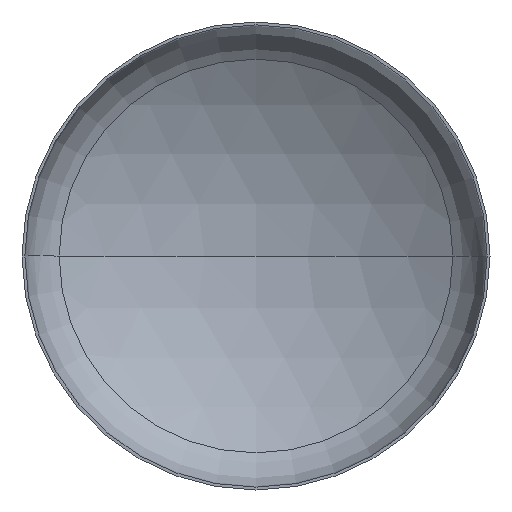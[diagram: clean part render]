
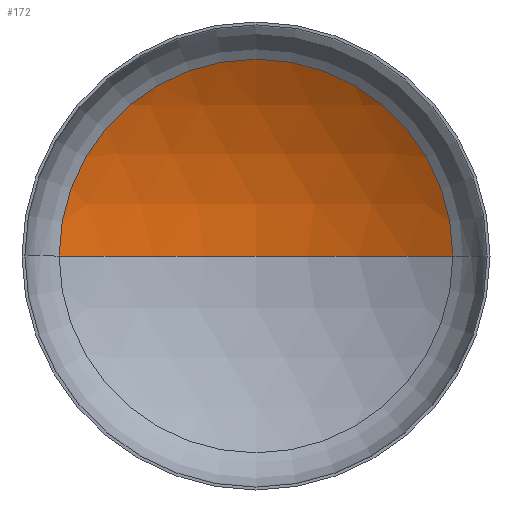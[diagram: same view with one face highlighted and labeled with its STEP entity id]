
A CAD part, front view. The second image highlights one B-rep face of the part: STEP entity #172.
In plain terms, the highlighted spherical face has radius 3600 mm.
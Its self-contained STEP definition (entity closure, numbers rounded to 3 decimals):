
#7 = ORIENTED_EDGE ( 'NONE', *, *, #131, .T. ) ;
#13 = CARTESIAN_POINT ( 'NONE',  ( 0., -2386.294, 0. ) ) ;
#15 = VERTEX_POINT ( 'NONE', #358 ) ;
#23 = EDGE_LOOP ( 'NONE', ( #54, #7, #363 ) ) ;
#27 = VERTEX_POINT ( 'NONE', #235 ) ;
#35 = AXIS2_PLACEMENT_3D ( 'NONE', #13, #195, #238 ) ;
#44 = VERTEX_POINT ( 'NONE', #262 ) ;
#54 = ORIENTED_EDGE ( 'NONE', *, *, #133, .F. ) ;
#56 = AXIS2_PLACEMENT_3D ( 'NONE', #228, #334, #179 ) ;
#65 = AXIS2_PLACEMENT_3D ( 'NONE', #181, #184, #227 ) ;
#67 = AXIS2_PLACEMENT_3D ( 'NONE', #209, #199, #197 ) ;
#130 = EDGE_CURVE ( 'NONE', #44, #15, #166, .T. ) ;
#131 = EDGE_CURVE ( 'NONE', #27, #44, #395, .T. ) ;
#133 = EDGE_CURVE ( 'NONE', #27, #15, #336, .T. ) ;
#166 = CIRCLE ( 'NONE', #67, 1892.324 ) ;
#172 = ADVANCED_FACE ( 'NONE', ( #275 ), #216, .F. ) ;
#179 = DIRECTION ( 'NONE',  ( 1., 0., 0. ) ) ;
#181 = CARTESIAN_POINT ( 'NONE',  ( 0., -2386.294, 0. ) ) ;
#184 = DIRECTION ( 'NONE',  ( 0., 0., -1. ) ) ;
#195 = DIRECTION ( 'NONE',  ( 0., 0., -1. ) ) ;
#197 = DIRECTION ( 'NONE',  ( 1., 0., 0. ) ) ;
#199 = DIRECTION ( 'NONE',  ( 0., -1., 0. ) ) ;
#209 = CARTESIAN_POINT ( 'NONE',  ( 0., 676.239, 0. ) ) ;
#216 = SPHERICAL_SURFACE ( 'NONE', #35, 3600. ) ;
#227 = DIRECTION ( 'NONE',  ( -1., 0., 0. ) ) ;
#228 = CARTESIAN_POINT ( 'NONE',  ( 0., -2386.294, 0. ) ) ;
#235 = CARTESIAN_POINT ( 'NONE',  ( 0., 1213.706, 0. ) ) ;
#238 = DIRECTION ( 'NONE',  ( -1., 0., 0. ) ) ;
#262 = CARTESIAN_POINT ( 'NONE',  ( 1892.324, 676.239, 0. ) ) ;
#275 = FACE_OUTER_BOUND ( 'NONE', #23, .T. ) ;
#334 = DIRECTION ( 'NONE',  ( 0., 0., 1. ) ) ;
#336 = CIRCLE ( 'NONE', #56, 3600. ) ;
#358 = CARTESIAN_POINT ( 'NONE',  ( -1892.324, 676.239, 0. ) ) ;
#363 = ORIENTED_EDGE ( 'NONE', *, *, #130, .T. ) ;
#395 = CIRCLE ( 'NONE', #65, 3600. ) ;
